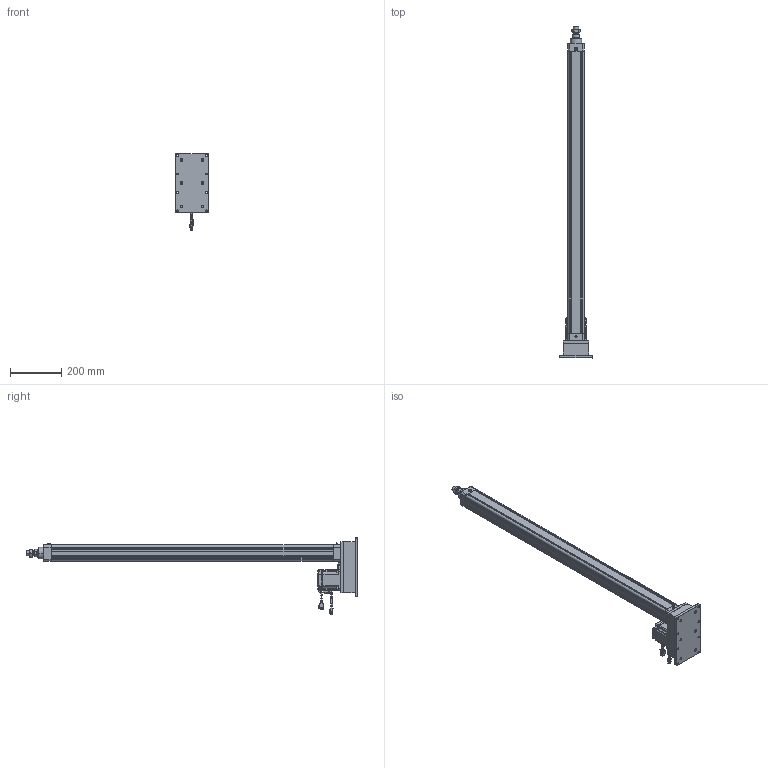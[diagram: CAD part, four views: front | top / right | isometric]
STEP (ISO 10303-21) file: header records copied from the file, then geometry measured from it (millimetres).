
FILE_DESCRIPTION((''),'2;1');
FILE_NAME('HE50-D-100-X1_ASM','2020-04-25T',('ASUS20200'),(''),'CREO PARAMETRIC BY PTC INC, 2014190','CREO PARAMETRIC BY PTC INC, 2014190','');
FILE_SCHEMA(('CONFIG_CONTROL_DESIGN'));
Length unit declared in the file: millimetre
Products named in the file (29): HE50-D-P-001-X1; HE50-D-P-002-X1; HE50-D-P-003-X1; 6301ZZ; LGLM-M8-22; SLM-01; YZ-M6X1; HE50-P-010-X1-400W; _MHMF082L1A2; _CABLE_MOTOR_BOTTOM_05; _CABLE_MOTOR_TOP_05; _MOTOR_CONNECTOR_2; _CABLE_BRAKE_BOTTOM_05; _CABLE_BRAKE_TOP_05; _MHMF_CONNECTOR_9_PIN_A6; MHMF082L1A2M2_1_ASM; TD-6; M6X25; LM-M6X1; JX6X6X20; M6X25-DS; LM-M6-15; HE50-P-012-X1; HE50-P-013-X1; M6X60; HE50-D-P-005-X1; HE50-D-P-004-X1; HE50-D-P-008-X1; HE50-D-100-X1_ASM
Assembly tree (50 placements, depth 3):
  HE50-D-100-X1_ASM
    HE50-D-P-001-X1
    HE50-D-P-002-X1
    HE50-D-P-003-X1
    6301ZZ
    LGLM-M8-22  x8
    SLM-01
    YZ-M6X1
    HE50-P-010-X1-400W
    MHMF082L1A2M2_1_ASM
      _MHMF082L1A2
      _CABLE_MOTOR_BOTTOM_05
      _CABLE_MOTOR_TOP_05
      _MOTOR_CONNECTOR_2
      _CABLE_BRAKE_BOTTOM_05
      _CABLE_BRAKE_TOP_05
      _MHMF_CONNECTOR_9_PIN_A6
    TD-6  x4
    M6X25  x4
    LM-M6X1  x5
    JX6X6X20
    M6X25-DS
    LM-M6-15
    HE50-P-012-X1
    HE50-P-013-X1
    M6X60  x6
    HE50-D-P-005-X1
    HE50-D-P-004-X1
    HE50-D-P-008-X1
Bounding box: 130 x 1298.5 x 298.65 mm (x, y, z)
Volume: 3422062.7 mm3; surface area: 995610.1 mm2
Topology: 49 solids, 79 shells, 2826 faces, 6808 edges, 4227 vertices
Faces by surface type: plane 1189, cylinder 783, cone 671, torus 138, sphere 42, bspline 3
Entity records: 68519 total; most frequent: CARTESIAN_POINT 12895, DIRECTION 12241, ORIENTED_EDGE 10904, EDGE_CURVE 5502, AXIS2_PLACEMENT_3D 4589, VERTEX_POINT 3446, VECTOR 3063, LINE 3063
